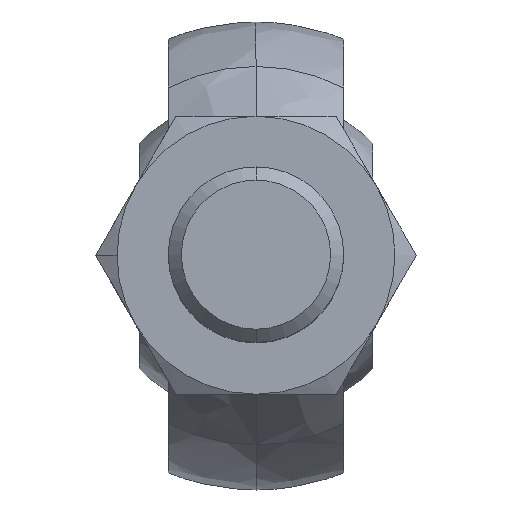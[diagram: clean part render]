
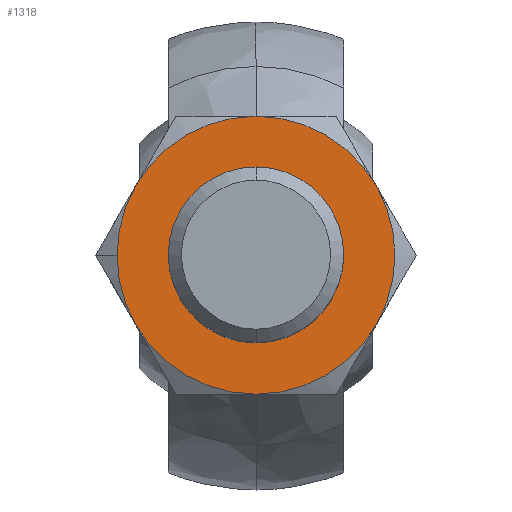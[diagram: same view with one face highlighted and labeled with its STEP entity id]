
A CAD part, top view. The second image highlights one B-rep face of the part: STEP entity #1318.
In plain terms, the highlighted free-form (B-spline) face has degree [1, 1] with [2, 2] control points.
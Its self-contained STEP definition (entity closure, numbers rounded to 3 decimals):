
#34=DIRECTION('',(0.5,0.866,0.));
#35=VECTOR('',#34,0.088);
#36=CARTESIAN_POINT('',(-8.227,4.75,30.));
#37=LINE('',#36,#35);
#38=CARTESIAN_POINT('',(0.001,-0.002,30.004));
#39=DIRECTION('',(0.,0.,-1.));
#40=DIRECTION('',(-0.861,0.508,0.));
#41=AXIS2_PLACEMENT_3D('',#38,#39,#40);
#43=DIRECTION('',(1.,0.,0.));
#44=VECTOR('',#43,0.088);
#45=CARTESIAN_POINT('',(-0.088,9.5,30.));
#46=LINE('',#45,#44);
#47=DIRECTION('',(1.,0.,0.));
#48=VECTOR('',#47,0.088);
#49=CARTESIAN_POINT('',(0.,9.5,30.));
#50=LINE('',#49,#48);
#51=CARTESIAN_POINT('',(-0.001,-0.002,
30.004));
#52=DIRECTION('',(0.,0.,-1.));
#53=DIRECTION('',(0.009,1.,0.));
#54=AXIS2_PLACEMENT_3D('',#51,#52,#53);
#56=DIRECTION('',(0.5,-0.866,0.));
#57=VECTOR('',#56,0.088);
#58=CARTESIAN_POINT('',(8.183,4.826,30.));
#59=LINE('',#58,#57);
#60=DIRECTION('',(0.5,-0.866,0.));
#61=VECTOR('',#60,0.088);
#62=CARTESIAN_POINT('',(8.227,4.75,30.));
#63=LINE('',#62,#61);
#64=CARTESIAN_POINT('',(-0.002,0.,30.004));
#65=DIRECTION('',(0.,0.,-1.));
#66=DIRECTION('',(0.871,0.492,0.));
#67=AXIS2_PLACEMENT_3D('',#64,#65,#66);
#69=CARTESIAN_POINT('',(-0.002,0.,30.004));
#70=DIRECTION('',(0.,0.,-1.));
#71=DIRECTION('',(1.,0.,0.));
#72=AXIS2_PLACEMENT_3D('',#69,#70,#71);
#74=DIRECTION('',(-0.5,-0.866,0.));
#75=VECTOR('',#74,0.088);
#76=CARTESIAN_POINT('',(8.271,-4.674,30.));
#77=LINE('',#76,#75);
#78=DIRECTION('',(-0.5,-0.866,0.));
#79=VECTOR('',#78,0.088);
#80=CARTESIAN_POINT('',(8.227,-4.75,30.));
#81=LINE('',#80,#79);
#82=CARTESIAN_POINT('',(-0.001,0.002,30.004));
#83=DIRECTION('',(0.,0.,-1.));
#84=DIRECTION('',(0.861,-0.508,0.));
#85=AXIS2_PLACEMENT_3D('',#82,#83,#84);
#87=DIRECTION('',(-1.,0.,0.));
#88=VECTOR('',#87,0.088);
#89=CARTESIAN_POINT('',(0.088,-9.5,30.));
#90=LINE('',#89,#88);
#91=DIRECTION('',(-1.,0.,0.));
#92=VECTOR('',#91,0.088);
#93=CARTESIAN_POINT('',(0.,-9.5,30.));
#94=LINE('',#93,#92);
#95=CARTESIAN_POINT('',(0.001,0.002,30.004));
#96=DIRECTION('',(0.,0.,-1.));
#97=DIRECTION('',(-0.009,-1.,0.));
#98=AXIS2_PLACEMENT_3D('',#95,#96,#97);
#100=DIRECTION('',(-0.5,0.866,0.));
#101=VECTOR('',#100,0.088);
#102=CARTESIAN_POINT('',(-8.183,-4.826,30.));
#103=LINE('',#102,#101);
#104=DIRECTION('',(-0.5,0.866,0.));
#105=VECTOR('',#104,0.011);
#106=CARTESIAN_POINT('',(-8.227,-4.75,30.));
#107=LINE('',#106,#105);
#108=CARTESIAN_POINT('',(0.,0.,30.));
#109=DIRECTION('',(0.,0.,-1.));
#110=DIRECTION('',(-0.867,-0.499,0.));
#111=AXIS2_PLACEMENT_3D('',#108,#109,#110);
#113=CARTESIAN_POINT('',(0.,0.,
30.));
#114=DIRECTION('',(0.,0.,-1.));
#115=DIRECTION('',(-1.,0.,0.));
#116=AXIS2_PLACEMENT_3D('',#113,#114,#115);
#118=DIRECTION('',(0.5,0.866,0.));
#119=VECTOR('',#118,0.011);
#120=CARTESIAN_POINT('',(-8.233,4.74,30.));
#121=LINE('',#120,#119);
#122=CARTESIAN_POINT('',(0.,0.,30.));
#123=DIRECTION('',(0.,0.,1.));
#124=DIRECTION('',(0.,-1.,0.));
#125=AXIS2_PLACEMENT_3D('',#122,#123,#124);
#127=CARTESIAN_POINT('',(0.,0.,30.));
#128=DIRECTION('',(0.,0.,1.));
#129=DIRECTION('',(0.,1.,0.));
#130=AXIS2_PLACEMENT_3D('',#127,#128,#129);
#1176=CARTESIAN_POINT('',(-9.5,0.,
30.));
#1177=VERTEX_POINT('',#1176);
#1178=CARTESIAN_POINT('',(0.,-5.998,30.));
#1179=CARTESIAN_POINT('',(0.,5.998,30.));
#1180=VERTEX_POINT('',#1178);
#1181=VERTEX_POINT('',#1179);
#1227=CARTESIAN_POINT('',(-8.233,-4.74,
30.));
#1228=VERTEX_POINT('',#1227);
#1229=CARTESIAN_POINT('',(-8.227,-4.75,30.));
#1230=VERTEX_POINT('',#1229);
#1231=CARTESIAN_POINT('',(-8.227,4.75,30.));
#1232=CARTESIAN_POINT('',(-8.183,4.826,30.));
#1233=VERTEX_POINT('',#1231);
#1234=VERTEX_POINT('',#1232);
#1235=CARTESIAN_POINT('',(-0.088,9.499,
30.));
#1236=VERTEX_POINT('',#1235);
#1237=CARTESIAN_POINT('',(0.,9.5,30.));
#1238=VERTEX_POINT('',#1237);
#1239=CARTESIAN_POINT('',(0.088,9.5,30.));
#1240=VERTEX_POINT('',#1239);
#1241=CARTESIAN_POINT('',(8.183,4.826,30.));
#1242=VERTEX_POINT('',#1241);
#1243=CARTESIAN_POINT('',(8.227,4.75,30.));
#1244=VERTEX_POINT('',#1243);
#1245=CARTESIAN_POINT('',(9.499,0.,30.));
#1246=CARTESIAN_POINT('',(8.271,-4.673,30.));
#1247=VERTEX_POINT('',#1245);
#1248=VERTEX_POINT('',#1246);
#1249=CARTESIAN_POINT('',(8.227,-4.75,30.));
#1250=VERTEX_POINT('',#1249);
#1251=CARTESIAN_POINT('',(8.271,4.673,30.));
#1252=VERTEX_POINT('',#1251);
#1253=CARTESIAN_POINT('',(8.183,-4.826,30.));
#1254=VERTEX_POINT('',#1253);
#1255=CARTESIAN_POINT('',(0.088,-9.499,
30.));
#1256=VERTEX_POINT('',#1255);
#1257=CARTESIAN_POINT('',(0.,-9.5,30.));
#1258=VERTEX_POINT('',#1257);
#1259=CARTESIAN_POINT('',(-0.088,-9.5,30.));
#1260=VERTEX_POINT('',#1259);
#1261=CARTESIAN_POINT('',(-8.183,-4.826,
30.));
#1262=VERTEX_POINT('',#1261);
#1263=CARTESIAN_POINT('',(-8.233,4.74,30.));
#1264=VERTEX_POINT('',#1263);
#1265=CARTESIAN_POINT('',(9.88,9.88,30.));
#1266=CARTESIAN_POINT('',(9.88,-9.88,30.));
#1267=CARTESIAN_POINT('',(-9.88,9.88,30.));
#1268=CARTESIAN_POINT('',(-9.88,-9.88,30.));
#1269=B_SPLINE_SURFACE_WITH_KNOTS('',1,1,((#1265,#1266),(#1267,#1268)),
.UNSPECIFIED.,.F.,.F.,.F.,(2,2),(2,2),(-9.88,9.88),(-9.88,9.88),
.UNSPECIFIED.);
#1271=ORIENTED_EDGE('',*,*,#1270,.T.);
#1273=ORIENTED_EDGE('',*,*,#1272,.T.);
#1275=ORIENTED_EDGE('',*,*,#1274,.T.);
#1277=ORIENTED_EDGE('',*,*,#1276,.T.);
#1279=ORIENTED_EDGE('',*,*,#1278,.T.);
#1281=ORIENTED_EDGE('',*,*,#1280,.T.);
#1283=ORIENTED_EDGE('',*,*,#1282,.T.);
#1285=ORIENTED_EDGE('',*,*,#1284,.T.);
#1287=ORIENTED_EDGE('',*,*,#1286,.T.);
#1289=ORIENTED_EDGE('',*,*,#1288,.T.);
#1291=ORIENTED_EDGE('',*,*,#1290,.T.);
#1293=ORIENTED_EDGE('',*,*,#1292,.T.);
#1295=ORIENTED_EDGE('',*,*,#1294,.T.);
#1297=ORIENTED_EDGE('',*,*,#1296,.T.);
#1299=ORIENTED_EDGE('',*,*,#1298,.T.);
#1301=ORIENTED_EDGE('',*,*,#1300,.T.);
#1303=ORIENTED_EDGE('',*,*,#1302,.T.);
#1305=ORIENTED_EDGE('',*,*,#1304,.T.);
#1307=ORIENTED_EDGE('',*,*,#1306,.T.);
#1309=ORIENTED_EDGE('',*,*,#1308,.T.);
#1310=EDGE_LOOP('',(#1271,#1273,#1275,#1277,#1279,#1281,#1283,#1285,#1287,#1289,
#1291,#1293,#1295,#1297,#1299,#1301,#1303,#1305,#1307,#1309));
#1311=FACE_OUTER_BOUND('',#1310,.F.);
#1313=ORIENTED_EDGE('',*,*,#1312,.T.);
#1315=ORIENTED_EDGE('',*,*,#1314,.T.);
#1316=EDGE_LOOP('',(#1313,#1315));
#1317=FACE_BOUND('',#1316,.F.);
#1318=ADVANCED_FACE('',(#1311,#1317),#1269,.T.);
#42=CIRCLE('',#41,9.502);
#55=CIRCLE('',#54,9.502);
#68=CIRCLE('',#67,9.502);
#73=CIRCLE('',#72,9.502);
#86=CIRCLE('',#85,9.502);
#99=CIRCLE('',#98,9.502);
#112=CIRCLE('',#111,9.5);
#117=CIRCLE('',#116,9.5);
#126=CIRCLE('',#125,5.998);
#131=CIRCLE('',#130,5.998);
#1270=EDGE_CURVE('',#1233,#1234,#37,.T.);
#1272=EDGE_CURVE('',#1234,#1236,#42,.T.);
#1274=EDGE_CURVE('',#1236,#1238,#46,.T.);
#1276=EDGE_CURVE('',#1238,#1240,#50,.T.);
#1278=EDGE_CURVE('',#1240,#1242,#55,.T.);
#1280=EDGE_CURVE('',#1242,#1244,#59,.T.);
#1282=EDGE_CURVE('',#1244,#1252,#63,.T.);
#1284=EDGE_CURVE('',#1252,#1247,#68,.T.);
#1286=EDGE_CURVE('',#1247,#1248,#73,.T.);
#1288=EDGE_CURVE('',#1248,#1250,#77,.T.);
#1290=EDGE_CURVE('',#1250,#1254,#81,.T.);
#1292=EDGE_CURVE('',#1254,#1256,#86,.T.);
#1294=EDGE_CURVE('',#1256,#1258,#90,.T.);
#1296=EDGE_CURVE('',#1258,#1260,#94,.T.);
#1298=EDGE_CURVE('',#1260,#1262,#99,.T.);
#1300=EDGE_CURVE('',#1262,#1230,#103,.T.);
#1302=EDGE_CURVE('',#1230,#1228,#107,.T.);
#1304=EDGE_CURVE('',#1228,#1177,#112,.T.);
#1306=EDGE_CURVE('',#1177,#1264,#117,.T.);
#1308=EDGE_CURVE('',#1264,#1233,#121,.T.);
#1312=EDGE_CURVE('',#1180,#1181,#126,.T.);
#1314=EDGE_CURVE('',#1181,#1180,#131,.T.);
